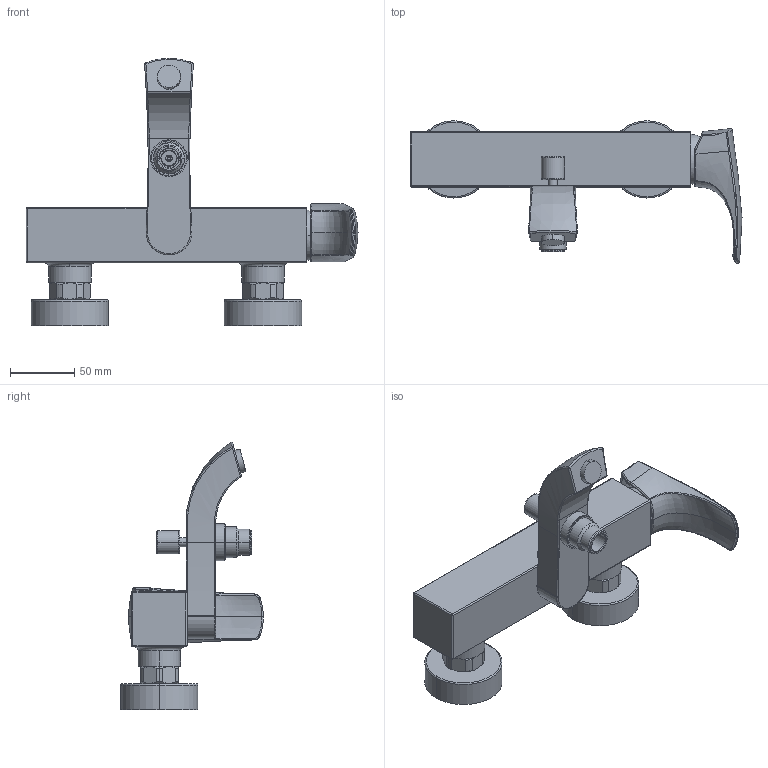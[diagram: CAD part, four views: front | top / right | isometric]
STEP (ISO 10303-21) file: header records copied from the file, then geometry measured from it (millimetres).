
FILE_DESCRIPTION(('STEP AP242'), '1');
FILE_NAME('89xx111-V2', '', ('UNSPECIFIED'), ('UNSPECIFIED'), 'ASCON STEP Converter 1.6', 'ASCON Math Kernel', '');
FILE_SCHEMA(('AP242_MANAGED_MODEL_BASED_3D_ENGINEERING_MIM_LF { 1 0 10303 442 1 1 4 }'));
Length unit declared in the file: millimetre
Products named in the file (3): oo
Assembly tree (2 placements, depth 3):
  (unnamed)
    (unnamed)
      oo
Bounding box: 257.76 x 110.72 x 207.37 mm (x, y, z)
Volume: 731437.8 mm3; surface area: 107004.7 mm2
Topology: 1 solids, 3 shells, 358 faces, 864 edges, 524 vertices
Faces by surface type: cylinder 122, bspline 89, plane 68, torus 47, cone 21, extrusion 7, sphere 4
Entity records: 25388 total; most frequent: CARTESIAN_POINT 14849, ORIENTED_EDGE 1698, DIRECTION 1368, EDGE_CURVE 849, AXIS2_PLACEMENT_3D 570, VERTEX_POINT 524, FACE_BOUND 389, EDGE_LOOP 389
